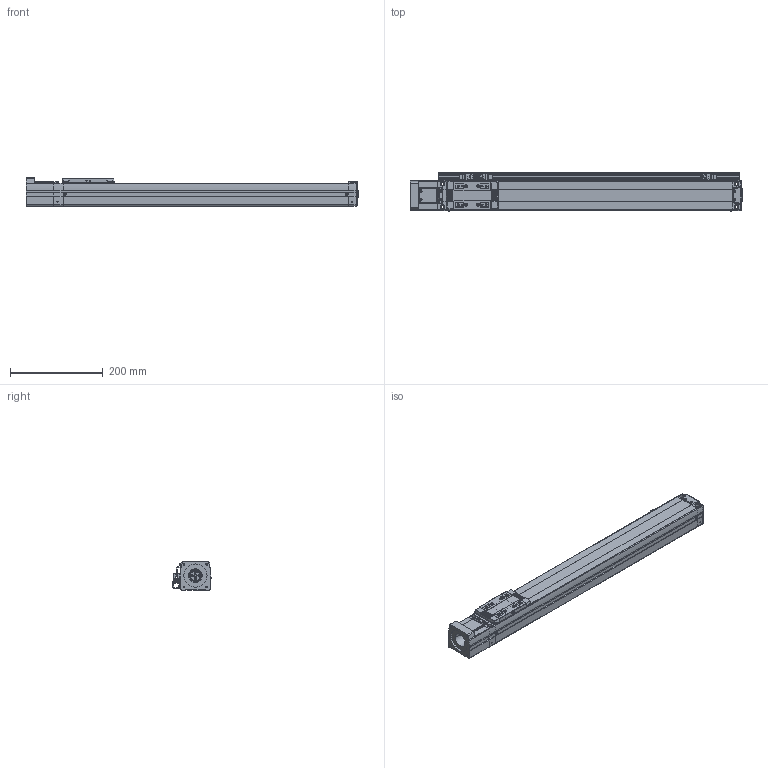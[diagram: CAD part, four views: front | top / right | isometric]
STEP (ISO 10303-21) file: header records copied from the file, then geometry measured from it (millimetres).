
FILE_DESCRIPTION(('STEP AP203'),'1');
FILE_NAME('Z:/Web/3D/SAN65/2012.ver/STP/500/SAN65ㅁㅁ-500S+3SL.stp','2014-06-13T06:36:12',(' '),(' '),'Spatial InterOp 3D',' ',' ');
FILE_SCHEMA(('CONFIG_CONTROL_DESIGN'));
Length unit declared in the file: millimetre
Products named in the file (74): 1; 2; 3; 4; 5; 6; 7; 8; 9; 10; 11; 12; 13; 14; 15; 16; 17; 18; 19; 20; 21; 22; 23; 24; 25; 26; 27; 28; 29; 30; 31; 32; 33; 34; 35; 36; 37; 38; 39; 40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
Bounding box: 716.15 x 82.06 x 62 mm (x, y, z)
Volume: 2333767.9 mm3; surface area: 355633.8 mm2
Topology: 74 solids, 74 shells, 2842 faces, 7455 edges, 4826 vertices
Faces by surface type: plane 1438, cylinder 956, cone 338, sphere 56, bspline 28, torus 20, extrusion 6
Full cylindrical faces by diameter (mm): 2.132 x1, 3.5 x2, 6 x2
Entity records: 94457 total; most frequent: CARTESIAN_POINT 19153, DIRECTION 15598, ORIENTED_EDGE 14722, EDGE_CURVE 7361, AXIS2_PLACEMENT_3D 5591, VERTEX_POINT 4825, VECTOR 4416, LINE 4410
